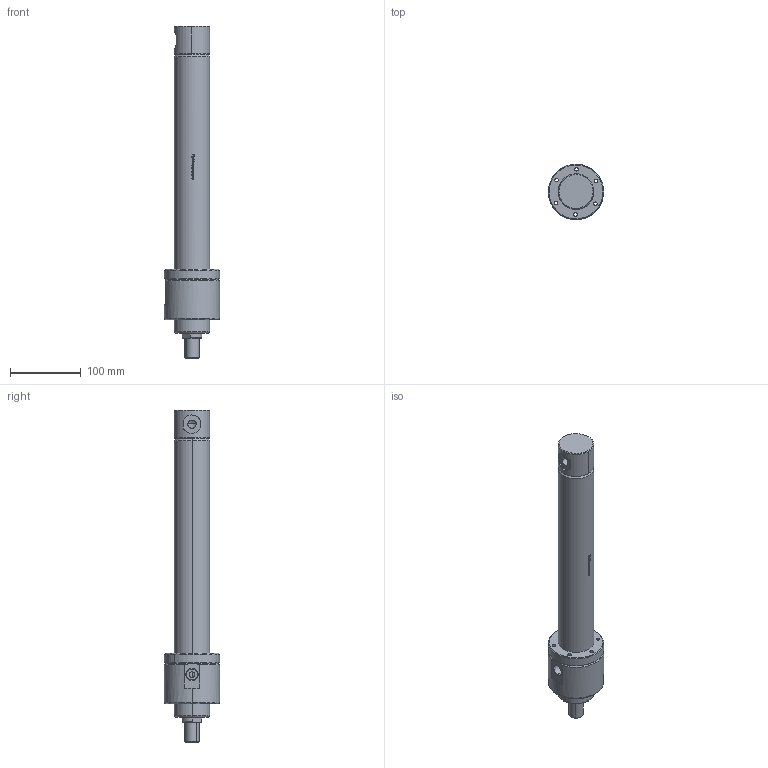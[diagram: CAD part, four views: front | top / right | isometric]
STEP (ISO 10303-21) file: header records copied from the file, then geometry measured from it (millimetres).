
FILE_DESCRIPTION (( 'STEP AP214' ), '1' );
FILE_NAME ('40_28_250_WEB.STEP', '2020-08-05T10:27:18', ( '' ), ( '' ), 'SwSTEP 2.0', 'SolidWorks 2018', '' );
FILE_SCHEMA (( 'AUTOMOTIVE_DESIGN' ));
Length unit declared in the file: millimetre
Products named in the file (11): KASTAS-K06-28X36_6X5_3X7; FLANS; KASTAS-K32-28X38X6; 40_25_HON_BORU_WEB; TYAK_40_50; 28_K_MIL_WEB; Kastas Seals-K68-28X32X9_7; 40_烰_KAPAK; KASTAS-K84-32_8X40X3_4; Assem1; 40_28_250_WEB
Assembly tree (11 placements, depth 3):
  40_28_250_WEB
    40_25_HON_BORU_WEB
    28_K_MIL_WEB
    Assem1
      40_烰_KAPAK
      KASTAS-K06-28X36_6X5_3X7
      KASTAS-K32-28X38X6
      Kastas Seals-K68-28X32X9_7  x2
      KASTAS-K84-32_8X40X3_4
    FLANS
    TYAK_40_50
Bounding box: 78 x 78 x 468 mm (x, y, z)
Volume: 606609.1 mm3; surface area: 176654.9 mm2
Topology: 10 solids, 10 shells, 483 faces, 1177 edges, 751 vertices
Faces by surface type: plane 143, cylinder 130, cone 103, bspline 103, torus 4
Entity records: 21002 total; most frequent: CARTESIAN_POINT 8059, ORIENTED_EDGE 2258, DIRECTION 2058, EDGE_CURVE 1129, AXIS2_PLACEMENT_3D 795, VERTEX_POINT 720, EDGE_LOOP 541, LINE 468
